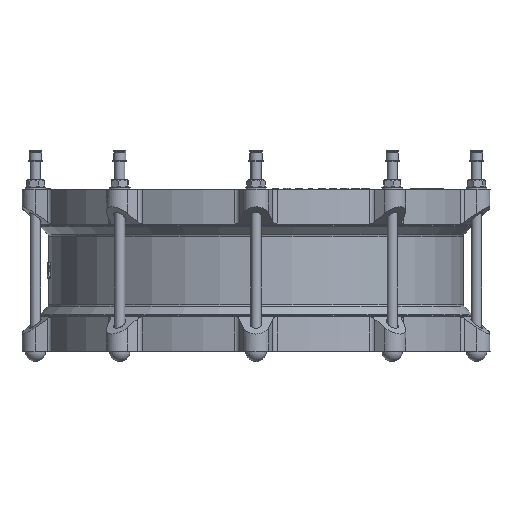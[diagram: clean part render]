
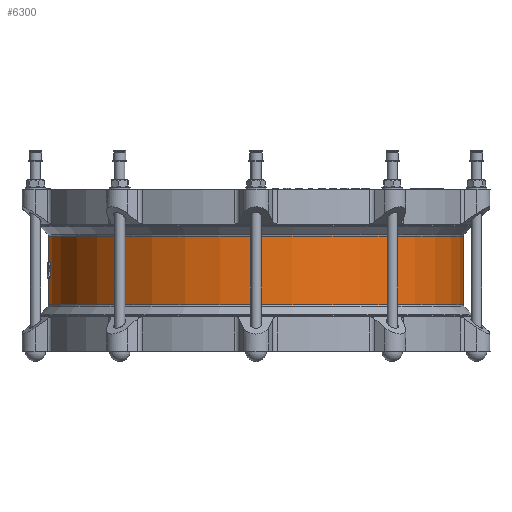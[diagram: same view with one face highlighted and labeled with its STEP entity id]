
A CAD part, left-side view. The second image highlights one B-rep face of the part: STEP entity #6300.
In plain terms, the highlighted cylindrical face has radius 280 mm (diameter 560 mm), a full revolution.
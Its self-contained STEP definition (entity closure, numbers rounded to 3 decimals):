
#6300=ADVANCED_FACE('',(#11751,#11753),#11755,.T.);
#11751=FACE_OUTER_BOUND('',#11752,.T.);
#11752=EDGE_LOOP('',(#17381));
#11753=FACE_OUTER_BOUND('',#11754,.T.);
#11754=EDGE_LOOP('',(#17382));
#11755=CYLINDRICAL_SURFACE('',#11756,280.);
#11756=AXIS2_PLACEMENT_3D('',#11757,#11758,#11759);
#11757=CARTESIAN_POINT('',(0.,0.,47.8));
#11758=DIRECTION('',(0.,0.,-1.));
#11759=DIRECTION('',(0.,1.,0.));
#17381=ORIENTED_EDGE('',*,*,#19795,.T.);
#17382=ORIENTED_EDGE('',*,*,#19796,.F.);
#19795=EDGE_CURVE('',#23167,#23167,#23168,.T.);
#19796=EDGE_CURVE('',#23169,#23169,#23170,.T.);
#23167=VERTEX_POINT('',#36712);
#23168=CIRCLE('',#36713,280.);
#23169=VERTEX_POINT('',#36717);
#23170=CIRCLE('',#36718,280.);
#36712=CARTESIAN_POINT('',(0.,280.,46.351));
#36713=AXIS2_PLACEMENT_3D('',#36714,#36715,#36716);
#36714=CARTESIAN_POINT('',(0.,0.,46.351));
#36715=DIRECTION('',(0.,0.,-1.));
#36716=DIRECTION('',(0.,1.,0.));
#36717=CARTESIAN_POINT('',(0.,280.,-46.351));
#36718=AXIS2_PLACEMENT_3D('',#36719,#36720,#36721);
#36719=CARTESIAN_POINT('',(0.,0.,-46.351));
#36720=DIRECTION('',(0.,0.,-1.));
#36721=DIRECTION('',(0.,1.,0.));
